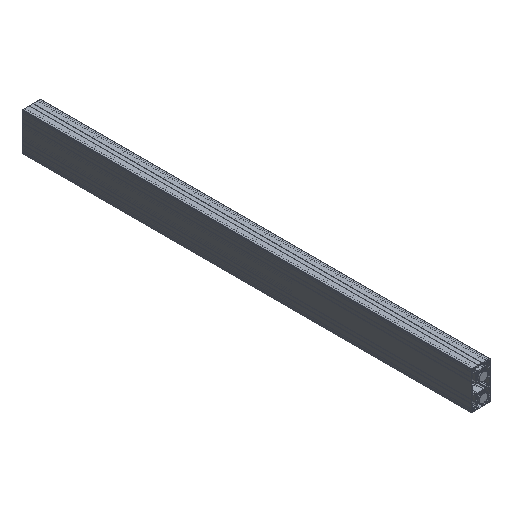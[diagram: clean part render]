
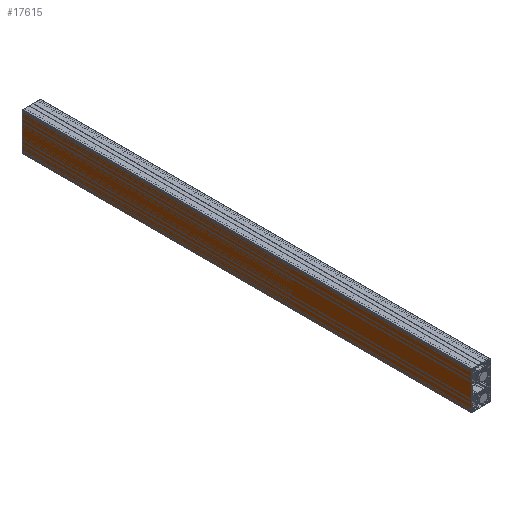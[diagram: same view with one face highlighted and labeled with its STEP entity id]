
A CAD part, isometric view. The second image highlights one B-rep face of the part: STEP entity #17615.
In plain terms, the highlighted planar face has unit normal (-1, 0, 0).
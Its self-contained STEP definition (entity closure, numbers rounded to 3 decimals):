
#526=PLANE('',#19382);
#2458=LINE('',#31725,#3678);
#2459=LINE('',#31729,#3679);
#2460=LINE('',#31731,#3680);
#2461=LINE('',#31733,#3681);
#3678=VECTOR('',#24041,1000.);
#3679=VECTOR('',#24046,1000.);
#3680=VECTOR('',#24047,1000.);
#3681=VECTOR('',#24048,1000.);
#7215=ORIENTED_EDGE('',*,*,#11755,.T.);
#7216=ORIENTED_EDGE('',*,*,#11756,.F.);
#7217=ORIENTED_EDGE('',*,*,#11757,.F.);
#7218=ORIENTED_EDGE('',*,*,#11753,.T.);
#11753=EDGE_CURVE('',#13588,#13587,#2458,.T.);
#11755=EDGE_CURVE('',#13587,#13589,#2459,.T.);
#11756=EDGE_CURVE('',#13590,#13589,#2460,.T.);
#11757=EDGE_CURVE('',#13588,#13590,#2461,.T.);
#13587=VERTEX_POINT('',#31724);
#13588=VERTEX_POINT('',#31726);
#13589=VERTEX_POINT('',#31730);
#13590=VERTEX_POINT('',#31732);
#15110=EDGE_LOOP('',(#7215,#7216,#7217,#7218));
#16082=FACE_BOUND('',#15110,.T.);
#17615=ADVANCED_FACE('',(#16082),#526,.T.);
#19382=AXIS2_PLACEMENT_3D('',#31728,#24044,#24045);
#24041=DIRECTION('',(0.,1.,0.));
#24044=DIRECTION('',(-1.,0.,0.));
#24045=DIRECTION('',(0.,0.,1.));
#24046=DIRECTION('',(0.,0.,-1.));
#24047=DIRECTION('',(0.,1.,0.));
#24048=DIRECTION('',(0.,0.,-1.));
#31724=CARTESIAN_POINT('',(-20.,950.,39.5));
#31725=CARTESIAN_POINT('',(-20.,0.,39.5));
#31726=CARTESIAN_POINT('',(-20.,0.,39.5));
#31728=CARTESIAN_POINT('',(-20.,0.,0.));
#31729=CARTESIAN_POINT('',(-20.,950.,39.5));
#31730=CARTESIAN_POINT('',(-20.,950.,-39.5));
#31731=CARTESIAN_POINT('',(-20.,0.,-39.5));
#31732=CARTESIAN_POINT('',(-20.,0.,-39.5));
#31733=CARTESIAN_POINT('',(-20.,0.,39.5));
